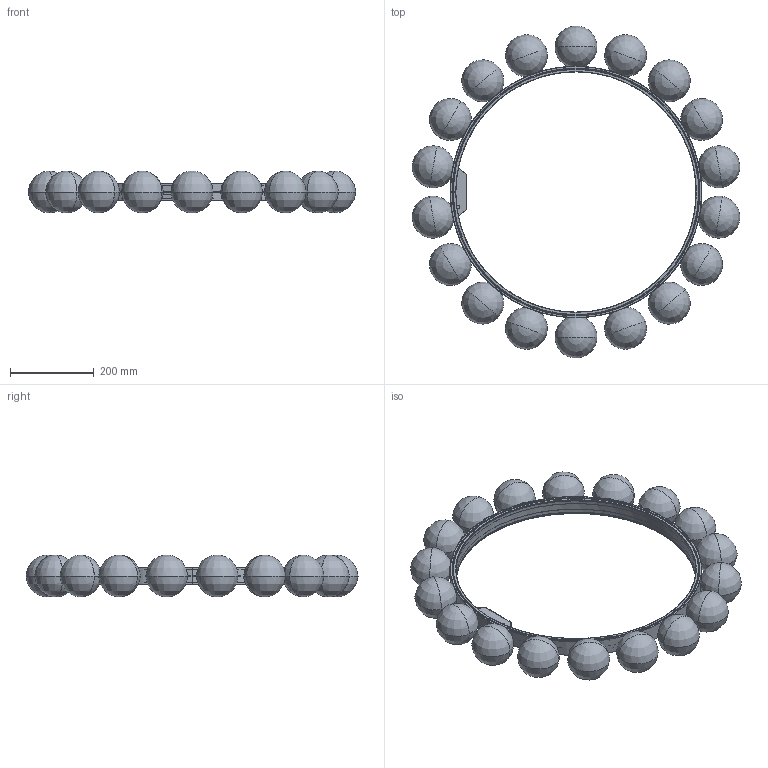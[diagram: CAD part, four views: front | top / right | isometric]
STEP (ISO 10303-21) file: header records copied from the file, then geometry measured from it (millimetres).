
FILE_DESCRIPTION(/* description */ (''),/* implementation_level */ '2;1');
FILE_NAME(/* name */ 'M116__~1',/* time_stamp */ '2024-07-03T10:57:07+02:00',/* author */ (''),/* organization */ (''),/* preprocessor_version */ 'ST-DEVELOPER v16.5',/* originating_system */ '',/* authorisation */ '');
FILE_SCHEMA (('AUTOMOTIVE_DESIGN'));
Products named in the file (1): Document
Bounding box: 781.99 x 792.52 x 100 mm (x, y, z)
Volume: 2173165.8 mm3; surface area: 1552204.4 mm2
Topology: 39 solids, 39 shells, 1403 faces, 3653 edges, 2182 vertices
Faces by surface type: bspline 1211, plane 192
Entity records: 88374 total; most frequent: CARTESIAN_POINT 69313, ORIENTED_EDGE 6946, EDGE_CURVE 3473, VERTEX_POINT 2182, EDGE_LOOP 1553, ADVANCED_FACE 1403, FACE_OUTER_BOUND 1403, B_SPLINE_CURVE_WITH_KNOTS 1204
